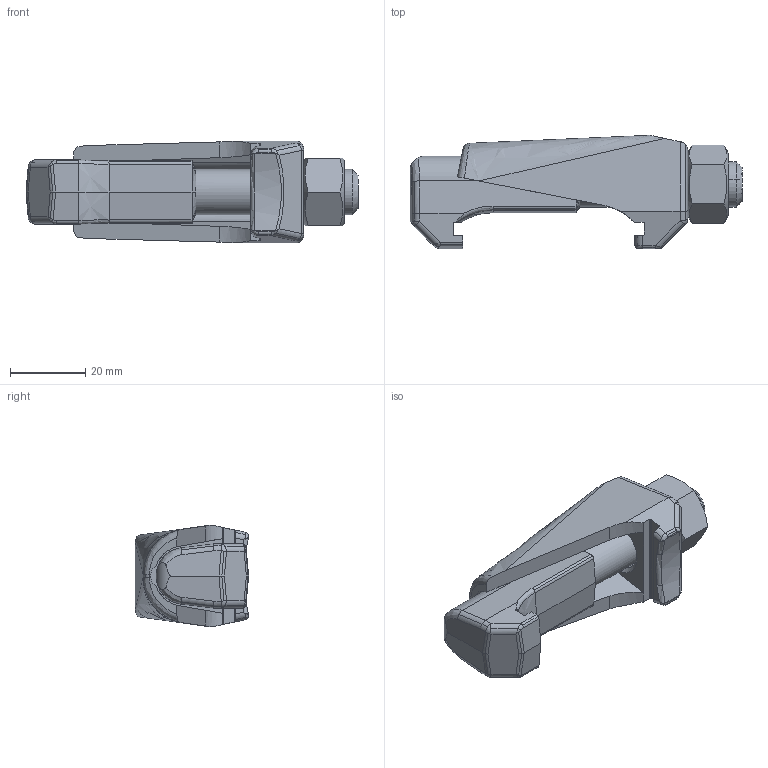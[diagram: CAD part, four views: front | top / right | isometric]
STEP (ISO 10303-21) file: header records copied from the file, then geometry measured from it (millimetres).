
FILE_DESCRIPTION((''),'2;1');
FILE_NAME('W:\212-227.stp','2004-01-08T13:18:18',('KAA'),(''),'Autodesk Inventor (R) 6.0','Autodesk Inventor (R) 6.0','');
FILE_SCHEMA(('CONFIG_CONTROL_DESIGN'));
Length unit declared in the file: millimetre
Products named in the file (1): 212-227
Bounding box: 88 x 30.02 x 27 mm (x, y, z)
Volume: 32444.1 mm3; surface area: 11961.3 mm2
Topology: 1 solids, 1 shells, 162 faces, 426 edges, 266 vertices
Faces by surface type: cylinder 74, plane 47, bspline 26, cone 10, sphere 4, torus 1
Entity records: 9798 total; most frequent: CARTESIAN_POINT 5852, ORIENTED_EDGE 844, DIRECTION 785, EDGE_CURVE 422, AXIS2_PLACEMENT_3D 306, VERTEX_POINT 266, VECTOR 173, LINE 173
